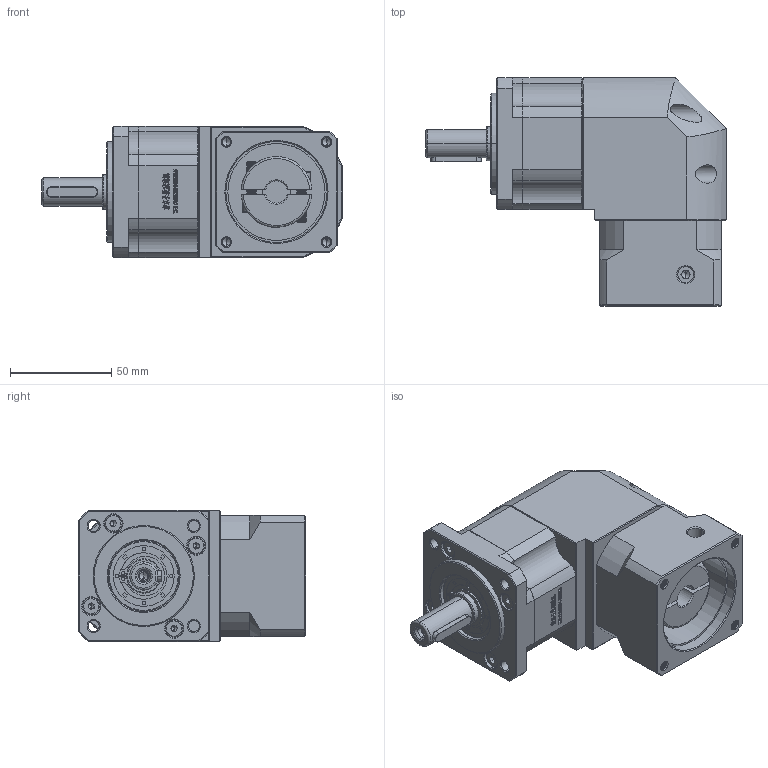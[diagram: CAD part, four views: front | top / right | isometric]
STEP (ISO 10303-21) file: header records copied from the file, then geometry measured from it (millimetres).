
FILE_DESCRIPTION (( 'STEP AP214' ), '1' );
FILE_NAME ('ZBR60-D14-L1-11-50-70-M5.STEP', '2022-04-19T08:27:01', ( '' ), ( 'Microsoft' ), 'SwSTEP 2.0', 'SolidWorks 2016', '' );
FILE_SCHEMA (( 'AUTOMOTIVE_DESIGN' ));
Length unit declared in the file: millimetre
Products named in the file (1): ZBR60-D14-L1-11-50-70-M5
Bounding box: 148.5 x 112.7 x 65 mm (x, y, z)
Volume: 525943.2 mm3; surface area: 77833.2 mm2
Topology: 5 solids, 5 shells, 2843 faces, 7713 edges, 5006 vertices
Faces by surface type: plane 1472, bspline 579, cylinder 432, cone 326, torus 34
Entity records: 155105 total; most frequent: CARTESIAN_POINT 56481, ORIENTED_EDGE 15366, DIRECTION 11725, EDGE_CURVE 7683, VECTOR 5057, LINE 5057, VERTEX_POINT 5006, AXIS2_PLACEMENT_3D 3334
